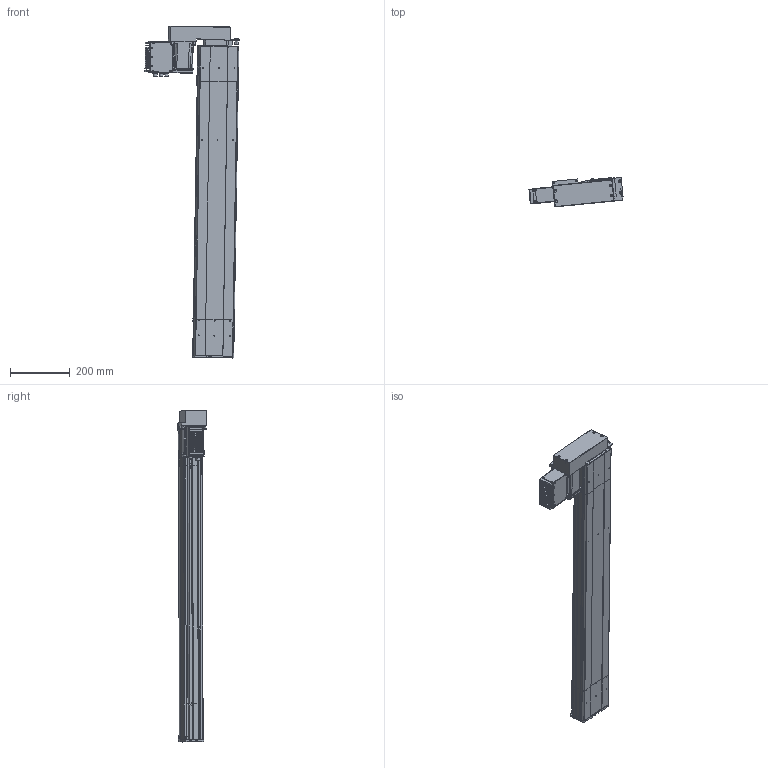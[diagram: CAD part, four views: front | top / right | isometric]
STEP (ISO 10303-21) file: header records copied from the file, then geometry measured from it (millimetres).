
FILE_DESCRIPTION (( 'STEP AP203' ), '1' );
FILE_NAME ('D14 TSH M4 BR L10 S800.STEP', '2012-10-10T13:55:38', ( '' ), ( '' ), 'SwSTEP 2.0', 'SolidWorks 2010', '' );
FILE_SCHEMA (( 'CONFIG_CONTROL_DESIGN' ));
Length unit declared in the file: millimetre
Products named in the file (27): Moteur_2; Sub D 9cts_2; T犨e contre le moteur_2; Tôle latérale_2; Connecteur rond D12 4cts_2; couvercle D14 head_Default_2; plaque de  bout tail D14_Default_2; Pièce802; vis CHC M7; plaque de bout head d14 BR; D14 TSH M4 BR L10 S800; corp head D14_Default_2; plaque de  bout head D14 MD_Default_2; corpl tail D14_Default_2; T犨e fond_2; Connecteur rond D10 3cts_2; Tôle Arrière_2; Couvercle_2; Moteur 70BLDC90A_2; Colonnette_2; Radiateur_2; Vis TF 3 torkx_2; Pièce800; Embout raccord d14; plaque de maintient D14; Vis CHC M8; vis CHC M5.5
Assembly tree (59 placements, depth 3):
  D14 TSH M4 BR L10 S800
    Pièce802
    corp head D14_Default_2
    Pièce800
    Embout raccord d14
      Vis CHC M8  x2
      vis CHC M5.5  x4
      plaque de bout head d14 BR
      vis CHC M7  x2
      plaque de maintient D14
    Moteur_2
      Vis TF 3 torkx_2  x26
      Couvercle_2
      Moteur 70BLDC90A_2
      Radiateur_2
      Sub D 9cts_2
      Connecteur rond D10 3cts_2  x2
      Connecteur rond D12 4cts_2
      Tôle latérale_2  x2
      Tôle Arrière_2
      T犨e fond_2
      Colonnette_2
      T犨e contre le moteur_2
    plaque de  bout head D14 MD_Default_2
    corpl tail D14_Default_2
    couvercle D14 head_Default_2  x2
    plaque de  bout tail D14_Default_2
Bounding box: 316.32 x 100.45 x 1115.83 mm (x, y, z)
Volume: 4256591 mm3; surface area: 1302522.2 mm2
Topology: 79 solids, 79 shells, 2575 faces, 6652 edges, 4377 vertices
Faces by surface type: plane 1388, cylinder 891, cone 150, bspline 130, torus 16
Entity records: 67439 total; most frequent: CARTESIAN_POINT 21211, ORIENTED_EDGE 8882, DIRECTION 8584, EDGE_CURVE 4441, VECTOR 2952, LINE 2952, VERTEX_POINT 2931, AXIS2_PLACEMENT_3D 2816
